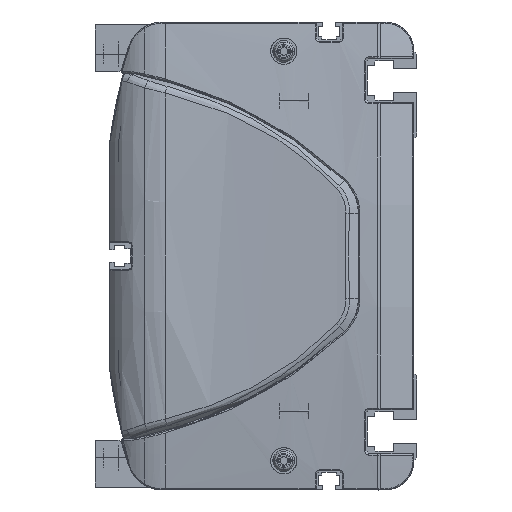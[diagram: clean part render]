
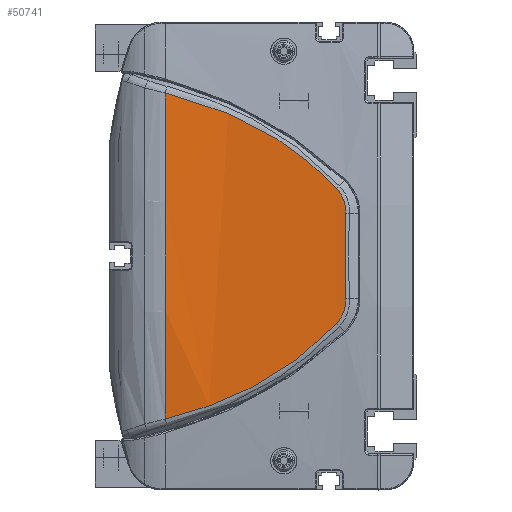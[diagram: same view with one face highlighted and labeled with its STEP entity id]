
A CAD part, left-side view. The second image highlights one B-rep face of the part: STEP entity #50741.
In plain terms, the highlighted cylindrical face has radius 600 mm (diameter 1200 mm), a partial arc.
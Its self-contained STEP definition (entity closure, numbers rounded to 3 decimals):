
#45771=CARTESIAN_POINT('',(-12.406,86.,
55.736));
#45772=CARTESIAN_POINT('',(-12.529,80.495,
54.41));
#45773=CARTESIAN_POINT('',(-12.828,69.636,
51.114));
#45774=CARTESIAN_POINT('',(-13.389,54.079,
44.179));
#45775=CARTESIAN_POINT('',(-14.01,39.709,
34.979));
#45776=CARTESIAN_POINT('',(-14.395,31.353,
27.243));
#45777=CARTESIAN_POINT('',(-14.555,27.451,
23.113));
#45779=CARTESIAN_POINT('',(-14.555,27.451,
23.113));
#45780=CARTESIAN_POINT('',(-14.641,25.336,
20.875));
#45781=CARTESIAN_POINT('',(-14.745,24.202,
17.745));
#45782=CARTESIAN_POINT('',(-14.821,24.351,
14.67));
#45784=CARTESIAN_POINT('',(-14.821,24.351,
14.67));
#45785=CARTESIAN_POINT('',(-14.9,24.51,
11.413));
#45786=CARTESIAN_POINT('',(-15.007,24.721,
4.895));
#45787=CARTESIAN_POINT('',(-15.007,24.721,
-4.895));
#45788=CARTESIAN_POINT('',(-14.9,24.51,
-11.413));
#45789=CARTESIAN_POINT('',(-14.821,24.351,
-14.67));
#45791=CARTESIAN_POINT('',(-14.821,24.351,
-14.67));
#45792=CARTESIAN_POINT('',(-14.745,24.202,
-17.745));
#45793=CARTESIAN_POINT('',(-14.641,25.337,
-20.876));
#45794=CARTESIAN_POINT('',(-14.555,27.451,
-23.113));
#45796=CARTESIAN_POINT('',(-14.555,27.451,
-23.113));
#45797=CARTESIAN_POINT('',(-14.395,31.353,
-27.243));
#45798=CARTESIAN_POINT('',(-14.01,39.709,
-34.979));
#45799=CARTESIAN_POINT('',(-13.389,54.079,
-44.179));
#45800=CARTESIAN_POINT('',(-12.828,69.636,
-51.114));
#45801=CARTESIAN_POINT('',(-12.529,80.495,
-54.41));
#45802=CARTESIAN_POINT('',(-12.406,86.,
-55.736));
#45804=CARTESIAN_POINT('',(585.,86.,0.));
#45805=DIRECTION('',(0.,1.,0.));
#45806=DIRECTION('',(-0.996,0.,-0.093));
#45807=AXIS2_PLACEMENT_3D('',#45804,#45805,#45806);
#45820=CARTESIAN_POINT('',(-12.406,86.,
55.736));
#46327=VERTEX_POINT('',#45820);
#46328=CARTESIAN_POINT('',(-12.406,86.,
-55.736));
#46329=VERTEX_POINT('',#46328);
#46381=VERTEX_POINT('',#45777);
#46382=VERTEX_POINT('',#45782);
#46383=VERTEX_POINT('',#45789);
#46384=VERTEX_POINT('',#45794);
#50723=CARTESIAN_POINT('',(585.,87.45,0.));
#50724=DIRECTION('',(0.,-1.,0.));
#50725=DIRECTION('',(0.,0.,-1.));
#50726=AXIS2_PLACEMENT_3D('',#50723,#50724,#50725);
#50727=CYLINDRICAL_SURFACE('',#50726,600.);
#50729=ORIENTED_EDGE('',*,*,#50728,.T.);
#50731=ORIENTED_EDGE('',*,*,#50730,.T.);
#50732=ORIENTED_EDGE('',*,*,#50713,.T.);
#50734=ORIENTED_EDGE('',*,*,#50733,.T.);
#50736=ORIENTED_EDGE('',*,*,#50735,.T.);
#50738=ORIENTED_EDGE('',*,*,#50737,.T.);
#50739=EDGE_LOOP('',(#50729,#50731,#50732,#50734,#50736,#50738));
#50740=FACE_OUTER_BOUND('',#50739,.F.);
#50741=ADVANCED_FACE('',(#50740),#50727,.T.);
#45778=B_SPLINE_CURVE_WITH_KNOTS('',3,(#45771,#45772,#45773,#45774,#45775,
#45776,#45777),.UNSPECIFIED.,.F.,.F.,(4,1,1,1,4),(0.,0.25,0.5,0.75,
1.),.UNSPECIFIED.);
#45783=B_SPLINE_CURVE_WITH_KNOTS('',3,(#45779,#45780,#45781,#45782),
.UNSPECIFIED.,.F.,.F.,(4,4),(0.,1.),.UNSPECIFIED.);
#45790=B_SPLINE_CURVE_WITH_KNOTS('',3,(#45784,#45785,#45786,#45787,#45788,
#45789),.UNSPECIFIED.,.F.,.F.,(4,1,1,4),(0.,0.333,
0.667,1.),.UNSPECIFIED.);
#45795=B_SPLINE_CURVE_WITH_KNOTS('',3,(#45791,#45792,#45793,#45794),
.UNSPECIFIED.,.F.,.F.,(4,4),(0.,1.),.UNSPECIFIED.);
#45803=B_SPLINE_CURVE_WITH_KNOTS('',3,(#45796,#45797,#45798,#45799,#45800,
#45801,#45802),.UNSPECIFIED.,.F.,.F.,(4,1,1,1,4),(0.,0.25,0.5,0.75,
1.),.UNSPECIFIED.);
#45808=CIRCLE('',#45807,600.);
#50713=EDGE_CURVE('',#46382,#46383,#45790,.T.);
#50728=EDGE_CURVE('',#46327,#46381,#45778,.T.);
#50730=EDGE_CURVE('',#46381,#46382,#45783,.T.);
#50733=EDGE_CURVE('',#46383,#46384,#45795,.T.);
#50735=EDGE_CURVE('',#46384,#46329,#45803,.T.);
#50737=EDGE_CURVE('',#46329,#46327,#45808,.T.);
